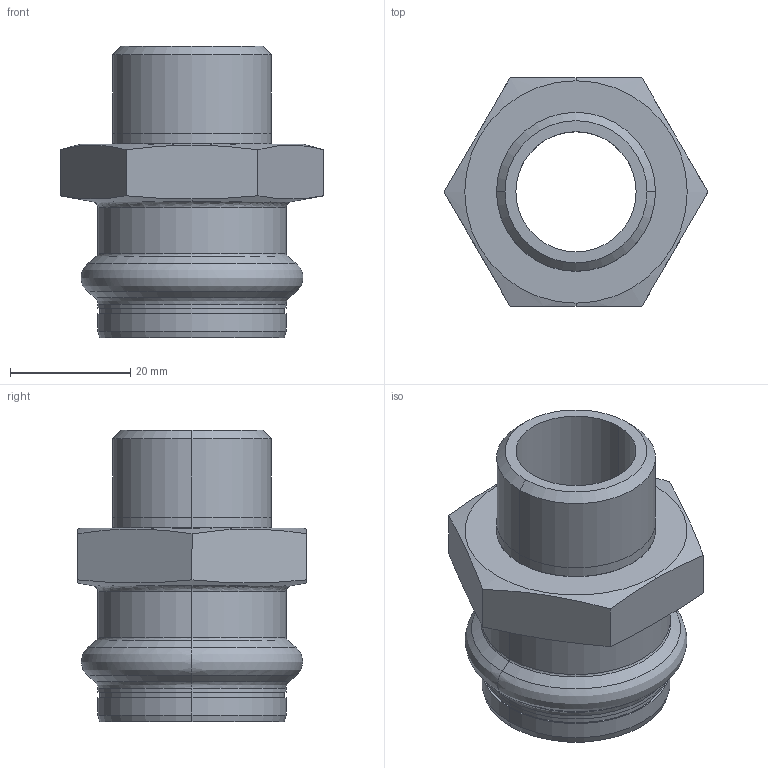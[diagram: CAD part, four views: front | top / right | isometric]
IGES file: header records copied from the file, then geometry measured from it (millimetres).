
Start section: Elysium IGES Interface
Global section: file name: C:\3d modellen sudo\C-Pr VP\SP8243GV\8243GVW2834.igs; native system: CoCreate Modeling 17.00A  17-Jun-2010; preprocessor: CoCreate IGES_3D V2.2; author: Unknown; organization: Unknown; date: 20130305.103608; units: millimetre
Bounding box: 43.88 x 38 x 48.5 mm (x, y, z)
Volume: 16482.5 mm3; surface area: 10612.9 mm2
Topology: 1 solids, 1 shells, 59 faces, 136 edges, 80 vertices
Faces by surface type: bspline 59
